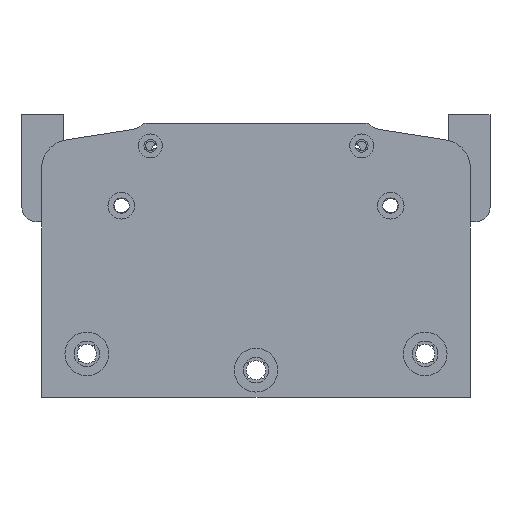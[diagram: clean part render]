
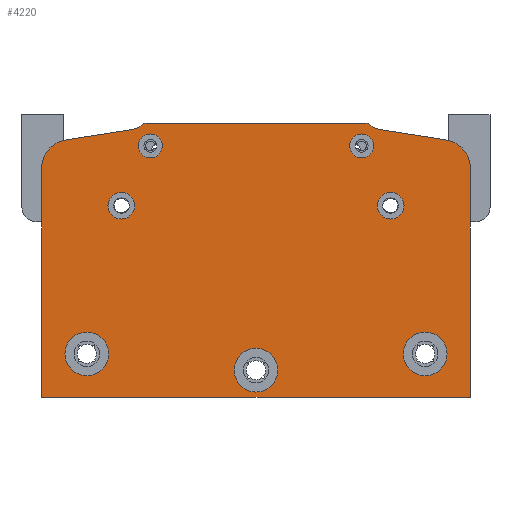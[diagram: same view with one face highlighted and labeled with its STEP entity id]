
A CAD part, left-side view. The second image highlights one B-rep face of the part: STEP entity #4220.
In plain terms, the highlighted planar face has unit normal (-1, 0, 0).
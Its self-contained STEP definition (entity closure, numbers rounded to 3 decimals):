
#363=LINE('',#23817,#1749);
#367=LINE('',#23826,#1753);
#380=LINE('',#23886,#1766);
#382=LINE('',#23904,#1768);
#383=LINE('',#23906,#1769);
#384=LINE('',#23916,#1770);
#1749=VECTOR('',#19273,1.);
#1753=VECTOR('',#19279,1.);
#1766=VECTOR('',#19330,1.);
#1768=VECTOR('',#19348,1.);
#1769=VECTOR('',#19349,1.);
#1770=VECTOR('',#19360,1.);
#4220=ADVANCED_FACE('',(#5798,#5799,#5800,#5801,#5802,#5803,#5804,#5805),
#4974,.T.);
#4974=PLANE('',#16787);
#5798=FACE_BOUND('',#6655,.T.);
#5799=FACE_BOUND('',#6656,.T.);
#5800=FACE_BOUND('',#6657,.T.);
#5801=FACE_BOUND('',#6658,.T.);
#5802=FACE_BOUND('',#6659,.T.);
#5803=FACE_BOUND('',#6660,.T.);
#5804=FACE_BOUND('',#6661,.T.);
#5805=FACE_BOUND('',#6662,.T.);
#6655=EDGE_LOOP('',(#8614));
#6656=EDGE_LOOP('',(#8615));
#6657=EDGE_LOOP('',(#8616));
#6658=EDGE_LOOP('',(#8617));
#6659=EDGE_LOOP('',(#8618));
#6660=EDGE_LOOP('',(#8619));
#6661=EDGE_LOOP('',(#8620));
#6662=EDGE_LOOP('',(#8621,#8622,#8623,#8624,#8625,#8626,#8627,#8628,#8629,
#8630,#8631,#8632));
#8614=ORIENTED_EDGE('',*,*,#13863,.F.);
#8615=ORIENTED_EDGE('',*,*,#13864,.F.);
#8616=ORIENTED_EDGE('',*,*,#13865,.F.);
#8617=ORIENTED_EDGE('',*,*,#13866,.F.);
#8618=ORIENTED_EDGE('',*,*,#13867,.F.);
#8619=ORIENTED_EDGE('',*,*,#13868,.F.);
#8620=ORIENTED_EDGE('',*,*,#13869,.F.);
#8621=ORIENTED_EDGE('',*,*,#13870,.F.);
#8622=ORIENTED_EDGE('',*,*,#13861,.F.);
#8623=ORIENTED_EDGE('',*,*,#13871,.T.);
#8624=ORIENTED_EDGE('',*,*,#13872,.F.);
#8625=ORIENTED_EDGE('',*,*,#13827,.F.);
#8626=ORIENTED_EDGE('',*,*,#13873,.F.);
#8627=ORIENTED_EDGE('',*,*,#13874,.F.);
#8628=ORIENTED_EDGE('',*,*,#13831,.F.);
#8629=ORIENTED_EDGE('',*,*,#13875,.T.);
#8630=ORIENTED_EDGE('',*,*,#13876,.F.);
#8631=ORIENTED_EDGE('',*,*,#13877,.F.);
#8632=ORIENTED_EDGE('',*,*,#13878,.F.);
#12168=VERTEX_POINT('',#23818);
#12169=VERTEX_POINT('',#23819);
#12172=VERTEX_POINT('',#23827);
#12173=VERTEX_POINT('',#23828);
#12199=VERTEX_POINT('',#23885);
#12200=VERTEX_POINT('',#23887);
#12201=VERTEX_POINT('',#23891);
#12202=VERTEX_POINT('',#23893);
#12203=VERTEX_POINT('',#23895);
#12204=VERTEX_POINT('',#23897);
#12205=VERTEX_POINT('',#23899);
#12206=VERTEX_POINT('',#23901);
#12207=VERTEX_POINT('',#23903);
#12208=VERTEX_POINT('',#23905);
#12209=VERTEX_POINT('',#23907);
#12210=VERTEX_POINT('',#23910);
#12211=VERTEX_POINT('',#23913);
#12212=VERTEX_POINT('',#23915);
#12213=VERTEX_POINT('',#23917);
#13827=EDGE_CURVE('',#12168,#12169,#363,.T.);
#13831=EDGE_CURVE('',#12172,#12173,#367,.T.);
#13861=EDGE_CURVE('',#12199,#12200,#380,.T.);
#13863=EDGE_CURVE('',#12201,#12201,#15725,.T.);
#13864=EDGE_CURVE('',#12202,#12202,#15726,.T.);
#13865=EDGE_CURVE('',#12203,#12203,#15727,.T.);
#13866=EDGE_CURVE('',#12204,#12204,#15728,.T.);
#13867=EDGE_CURVE('',#12205,#12205,#15729,.T.);
#13868=EDGE_CURVE('',#12206,#12206,#15730,.T.);
#13869=EDGE_CURVE('',#12207,#12207,#15731,.T.);
#13870=EDGE_CURVE('',#12200,#12208,#382,.T.);
#13871=EDGE_CURVE('',#12199,#12209,#383,.T.);
#13872=EDGE_CURVE('',#12169,#12209,#15732,.T.);
#13873=EDGE_CURVE('',#12210,#12168,#15733,.T.);
#13874=EDGE_CURVE('',#12173,#12210,#15734,.T.);
#13875=EDGE_CURVE('',#12172,#12211,#15735,.T.);
#13876=EDGE_CURVE('',#12212,#12211,#15736,.T.);
#13877=EDGE_CURVE('',#12213,#12212,#384,.T.);
#13878=EDGE_CURVE('',#12208,#12213,#15737,.T.);
#15725=CIRCLE('',#16774,4.25);
#15726=CIRCLE('',#16775,4.25);
#15727=CIRCLE('',#16776,4.75);
#15728=CIRCLE('',#16777,4.75);
#15729=CIRCLE('',#16778,7.75);
#15730=CIRCLE('',#16779,7.75);
#15731=CIRCLE('',#16780,7.75);
#15732=CIRCLE('',#16781,10.);
#15733=CIRCLE('',#16782,6.);
#15734=CIRCLE('',#16783,2.5);
#15735=CIRCLE('',#16784,2.5);
#15736=CIRCLE('',#16785,6.);
#15737=CIRCLE('',#16786,10.);
#16774=AXIS2_PLACEMENT_3D('',#23890,#19334,#19335);
#16775=AXIS2_PLACEMENT_3D('',#23892,#19336,#19337);
#16776=AXIS2_PLACEMENT_3D('',#23894,#19338,#19339);
#16777=AXIS2_PLACEMENT_3D('',#23896,#19340,#19341);
#16778=AXIS2_PLACEMENT_3D('',#23898,#19342,#19343);
#16779=AXIS2_PLACEMENT_3D('',#23900,#19344,#19345);
#16780=AXIS2_PLACEMENT_3D('',#23902,#19346,#19347);
#16781=AXIS2_PLACEMENT_3D('',#23908,#19350,#19351);
#16782=AXIS2_PLACEMENT_3D('',#23909,#19352,#19353);
#16783=AXIS2_PLACEMENT_3D('',#23911,#19354,#19355);
#16784=AXIS2_PLACEMENT_3D('',#23912,#19356,#19357);
#16785=AXIS2_PLACEMENT_3D('',#23914,#19358,#19359);
#16786=AXIS2_PLACEMENT_3D('',#23918,#19361,#19362);
#16787=AXIS2_PLACEMENT_3D('',#23919,#19363,#19364);
#19273=DIRECTION('',(0.,-0.988,-0.156));
#19279=DIRECTION('',(0.,-1.,0.));
#19330=DIRECTION('',(0.,1.,0.));
#19334=DIRECTION('',(-1.,0.,0.));
#19335=DIRECTION('',(0.,0.,1.));
#19336=DIRECTION('',(-1.,0.,0.));
#19337=DIRECTION('',(0.,0.,1.));
#19338=DIRECTION('',(-1.,0.,0.));
#19339=DIRECTION('',(0.,0.,1.));
#19340=DIRECTION('',(-1.,0.,0.));
#19341=DIRECTION('',(0.,0.,1.));
#19342=DIRECTION('',(-1.,0.,0.));
#19343=DIRECTION('',(0.,0.,1.));
#19344=DIRECTION('',(-1.,0.,0.));
#19345=DIRECTION('',(0.,0.,1.));
#19346=DIRECTION('',(-1.,0.,0.));
#19347=DIRECTION('',(0.,0.,1.));
#19348=DIRECTION('',(0.,0.,1.));
#19349=DIRECTION('',(0.,0.,1.));
#19350=DIRECTION('',(1.,0.,0.));
#19351=DIRECTION('',(0.,0.,-1.));
#19352=DIRECTION('',(-1.,0.,0.));
#19353=DIRECTION('',(0.,0.,-1.));
#19354=DIRECTION('',(1.,0.,0.));
#19355=DIRECTION('',(0.,0.,-1.));
#19356=DIRECTION('',(-1.,0.,0.));
#19357=DIRECTION('',(0.,0.,-1.));
#19358=DIRECTION('',(-1.,0.,0.));
#19359=DIRECTION('',(0.,0.,-1.));
#19360=DIRECTION('',(0.,-0.988,0.156));
#19361=DIRECTION('',(1.,0.,0.));
#19362=DIRECTION('',(0.,0.,-1.));
#19363=DIRECTION('',(-1.,0.,0.));
#19364=DIRECTION('',(0.,0.,-1.));
#23817=CARTESIAN_POINT('',(734.416,488.321,381.4));
#23818=CARTESIAN_POINT('',(734.416,462.124,377.251));
#23819=CARTESIAN_POINT('',(734.416,438.369,373.488));
#23826=CARTESIAN_POINT('',(734.416,505.933,379.4));
#23827=CARTESIAN_POINT('',(734.416,544.949,379.4));
#23828=CARTESIAN_POINT('',(734.416,466.917,379.4));
#23885=CARTESIAN_POINT('',(734.416,429.933,282.2));
#23886=CARTESIAN_POINT('',(734.416,505.933,282.2));
#23887=CARTESIAN_POINT('',(734.416,581.933,282.2));
#23890=CARTESIAN_POINT('',(734.416,543.433,371.4));
#23891=CARTESIAN_POINT('',(734.416,543.433,375.65));
#23892=CARTESIAN_POINT('',(734.416,468.433,371.4));
#23893=CARTESIAN_POINT('',(734.416,468.433,375.65));
#23894=CARTESIAN_POINT('',(734.416,553.683,350.2));
#23895=CARTESIAN_POINT('',(734.416,553.683,354.95));
#23896=CARTESIAN_POINT('',(734.416,458.183,350.2));
#23897=CARTESIAN_POINT('',(734.416,458.183,354.95));
#23898=CARTESIAN_POINT('',(734.416,565.933,297.626));
#23899=CARTESIAN_POINT('',(734.416,565.933,305.376));
#23900=CARTESIAN_POINT('',(734.416,505.933,291.85));
#23901=CARTESIAN_POINT('',(734.416,505.933,299.6));
#23902=CARTESIAN_POINT('',(734.416,445.933,297.626));
#23903=CARTESIAN_POINT('',(734.416,445.933,305.376));
#23904=CARTESIAN_POINT('',(734.416,581.933,270.2));
#23905=CARTESIAN_POINT('',(734.416,581.933,363.611));
#23906=CARTESIAN_POINT('',(734.416,429.933,270.2));
#23907=CARTESIAN_POINT('',(734.416,429.933,363.611));
#23908=CARTESIAN_POINT('',(734.416,439.933,363.611));
#23909=CARTESIAN_POINT('',(734.416,461.185,383.177));
#23910=CARTESIAN_POINT('',(734.416,465.231,378.746));
#23911=CARTESIAN_POINT('',(734.416,466.917,376.9));
#23912=CARTESIAN_POINT('',(734.416,544.949,376.9));
#23913=CARTESIAN_POINT('',(734.416,546.635,378.746));
#23914=CARTESIAN_POINT('',(734.416,550.681,383.177));
#23915=CARTESIAN_POINT('',(734.416,549.742,377.251));
#23916=CARTESIAN_POINT('',(734.416,523.545,381.4));
#23917=CARTESIAN_POINT('',(734.416,573.497,373.488));
#23918=CARTESIAN_POINT('',(734.416,571.933,363.611));
#23919=CARTESIAN_POINT('',(734.416,505.933,270.2));
